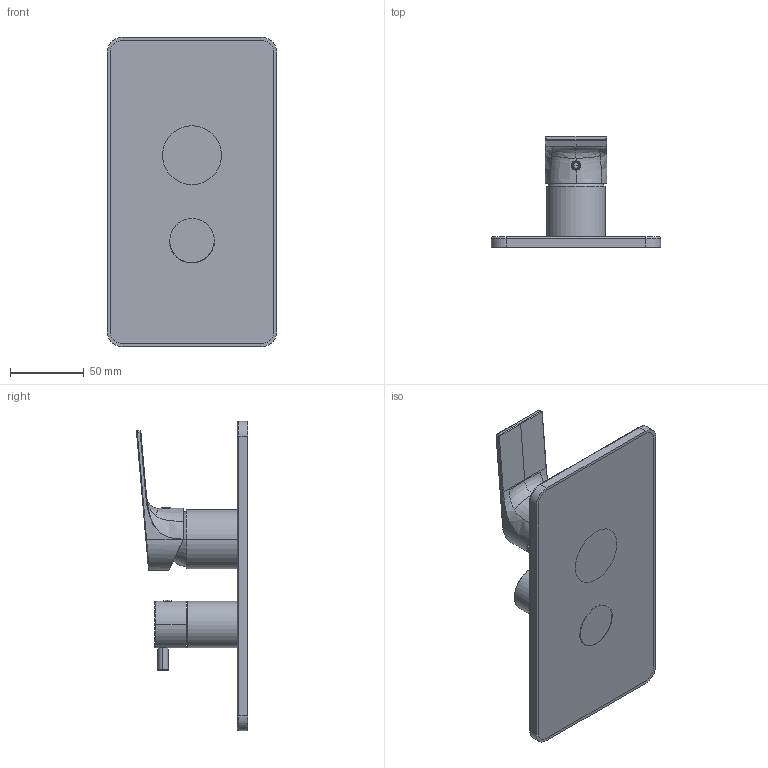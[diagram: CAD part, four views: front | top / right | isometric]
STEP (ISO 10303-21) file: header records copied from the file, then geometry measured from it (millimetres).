
FILE_DESCRIPTION((''),'2;1');
FILE_NAME('78541A_SW0001','2024-09-13T11:01:21',('carloff'),(''),'CREO PARAMETRIC BY PTC INC, 2022014','CREO PARAMETRIC BY PTC INC, 2022014','');
FILE_SCHEMA(('CONFIG_CONTROL_DESIGN'));
Length unit declared in the file: millimetre
Products named in the file (1): 78541A_SW0001
Bounding box: 115 x 75.47 x 210 mm (x, y, z)
Volume: 199794.9 mm3; surface area: 125826.8 mm2
Topology: 2 solids, 3 shells, 306 faces, 787 edges, 495 vertices
Faces by surface type: plane 123, cylinder 96, bspline 45, torus 20, cone 16, sphere 4, extrusion 2
Entity records: 20669 total; most frequent: CARTESIAN_POINT 13520, ORIENTED_EDGE 1566, DIRECTION 1346, EDGE_CURVE 783, VERTEX_POINT 495, AXIS2_PLACEMENT_3D 469, VECTOR 408, LINE 406
